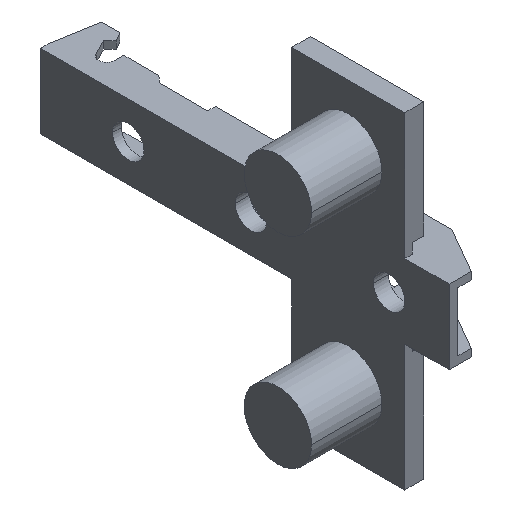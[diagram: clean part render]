
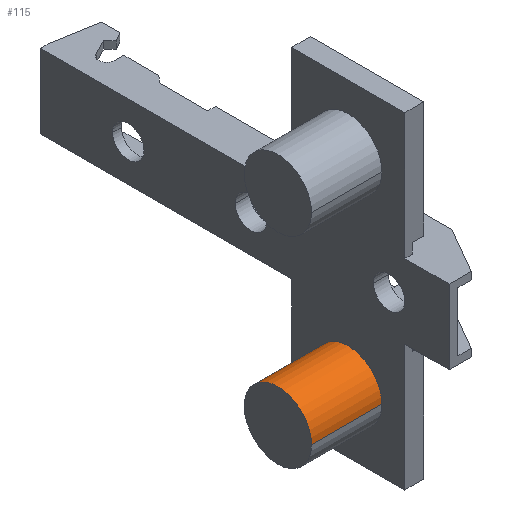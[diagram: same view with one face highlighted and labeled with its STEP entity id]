
A CAD part, isometric view. The second image highlights one B-rep face of the part: STEP entity #115.
In plain terms, the highlighted cylindrical face has radius 5.35 mm (diameter 10.7 mm), a partial arc.
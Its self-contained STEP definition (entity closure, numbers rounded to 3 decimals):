
#13 = VECTOR ( 'NONE', #1709, 1000. ) ;
#21 = LINE ( 'NONE', #1721, #13 ) ;
#115 = ADVANCED_FACE ( 'NONE', ( #1579 ), #1577, .T. ) ;
#197 = DIRECTION ( 'NONE',  ( 0., 1., 0. ) ) ;
#202 = CARTESIAN_POINT ( 'NONE',  ( 0., 0., -16. ) ) ;
#203 = DIRECTION ( 'NONE',  ( -1., 0., 0. ) ) ;
#321 = CARTESIAN_POINT ( 'NONE',  ( -11.2, -5.35, -16. ) ) ;
#324 = DIRECTION ( 'NONE',  ( 1., 0., 0. ) ) ;
#396 = CARTESIAN_POINT ( 'NONE',  ( -11.2, 0., -16. ) ) ;
#494 = DIRECTION ( 'NONE',  ( -1., 0., 0. ) ) ;
#495 = DIRECTION ( 'NONE',  ( 0., 1., 0. ) ) ;
#630 = DIRECTION ( 'NONE',  ( 0., -1., 0. ) ) ;
#942 = DIRECTION ( 'NONE',  ( 1., 0., 0. ) ) ;
#943 = CARTESIAN_POINT ( 'NONE',  ( -11.2, 0., -16. ) ) ;
#988 = CARTESIAN_POINT ( 'NONE',  ( -11.2, -5.35, -16. ) ) ;
#1046 = CARTESIAN_POINT ( 'NONE',  ( 0., -5.35, -16. ) ) ;
#1049 = CARTESIAN_POINT ( 'NONE',  ( -11.2, 5.35, -16. ) ) ;
#1208 = VERTEX_POINT ( 'NONE', #988 ) ;
#1328 = VECTOR ( 'NONE', #324, 1000. ) ;
#1361 = LINE ( 'NONE', #321, #1328 ) ;
#1468 = CIRCLE ( 'NONE', #2255, 5.35 ) ;
#1551 = EDGE_LOOP ( 'NONE', ( #2805, #2804, #2810, #2809 ) ) ;
#1577 = CYLINDRICAL_SURFACE ( 'NONE', #2167, 5.35 ) ;
#1579 = FACE_OUTER_BOUND ( 'NONE', #1551, .T. ) ;
#1704 = CARTESIAN_POINT ( 'NONE',  ( 0., 5.35, -16. ) ) ;
#1709 = DIRECTION ( 'NONE',  ( 1., 0., 0. ) ) ;
#1721 = CARTESIAN_POINT ( 'NONE',  ( -11.2, 5.35, -16. ) ) ;
#1818 = VERTEX_POINT ( 'NONE', #1046 ) ;
#1821 = VERTEX_POINT ( 'NONE', #1049 ) ;
#1957 = CIRCLE ( 'NONE', #2384, 5.35 ) ;
#2012 = EDGE_CURVE ( 'NONE', #1818, #2998, #1468, .T. ) ;
#2111 = EDGE_CURVE ( 'NONE', #1208, #1818, #1361, .T. ) ;
#2167 = AXIS2_PLACEMENT_3D ( 'NONE', #943, #942, #630 ) ;
#2230 = EDGE_CURVE ( 'NONE', #1208, #1821, #1957, .T. ) ;
#2255 = AXIS2_PLACEMENT_3D ( 'NONE', #202, #203, #197 ) ;
#2377 = EDGE_CURVE ( 'NONE', #1821, #2998, #21, .T. ) ;
#2384 = AXIS2_PLACEMENT_3D ( 'NONE', #396, #494, #495 ) ;
#2804 = ORIENTED_EDGE ( 'NONE', *, *, #2230, .F. ) ;
#2805 = ORIENTED_EDGE ( 'NONE', *, *, #2377, .F. ) ;
#2809 = ORIENTED_EDGE ( 'NONE', *, *, #2012, .T. ) ;
#2810 = ORIENTED_EDGE ( 'NONE', *, *, #2111, .T. ) ;
#2998 = VERTEX_POINT ( 'NONE', #1704 ) ;
